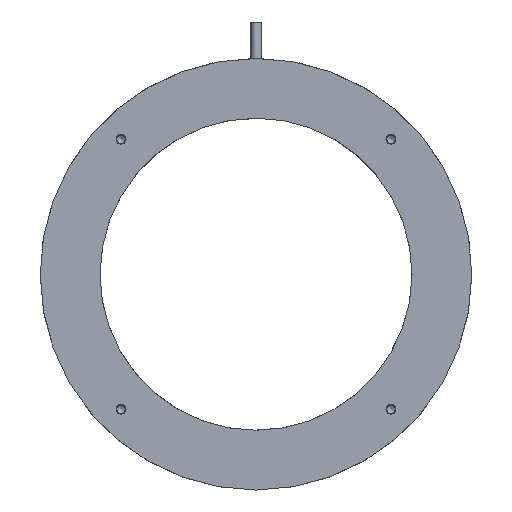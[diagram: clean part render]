
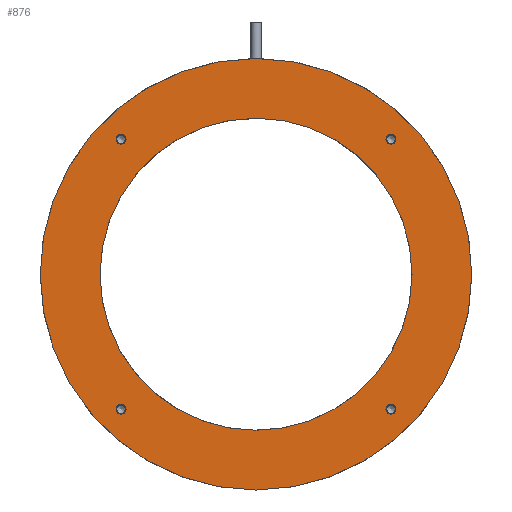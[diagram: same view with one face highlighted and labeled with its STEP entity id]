
A CAD part, front view. The second image highlights one B-rep face of the part: STEP entity #876.
In plain terms, the highlighted planar face has unit normal (0, -1, 0).
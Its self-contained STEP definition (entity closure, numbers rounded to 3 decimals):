
#31=FACE_BOUND('',#140,.T.);
#32=FACE_BOUND('',#141,.T.);
#33=FACE_BOUND('',#142,.T.);
#34=FACE_BOUND('',#143,.T.);
#35=FACE_BOUND('',#144,.T.);
#56=PLANE('',#979);
#88=FACE_OUTER_BOUND('',#139,.T.);
#139=EDGE_LOOP('',(#674));
#140=EDGE_LOOP('',(#675,#676));
#141=EDGE_LOOP('',(#677,#678));
#142=EDGE_LOOP('',(#679,#680));
#143=EDGE_LOOP('',(#681,#682));
#144=EDGE_LOOP('',(#683));
#285=CIRCLE('',#968,65.);
#291=CIRCLE('',#980,1.5);
#292=CIRCLE('',#981,1.5);
#293=CIRCLE('',#982,1.5);
#294=CIRCLE('',#983,1.5);
#295=CIRCLE('',#984,1.5);
#296=CIRCLE('',#985,1.5);
#297=CIRCLE('',#986,1.5);
#298=CIRCLE('',#987,1.5);
#299=CIRCLE('',#988,47.);
#370=VERTEX_POINT('',#1469);
#375=VERTEX_POINT('',#1490);
#376=VERTEX_POINT('',#1491);
#377=VERTEX_POINT('',#1494);
#378=VERTEX_POINT('',#1495);
#379=VERTEX_POINT('',#1498);
#380=VERTEX_POINT('',#1499);
#381=VERTEX_POINT('',#1502);
#382=VERTEX_POINT('',#1503);
#383=VERTEX_POINT('',#1506);
#477=EDGE_CURVE('',#370,#370,#285,.T.);
#487=EDGE_CURVE('',#375,#376,#291,.T.);
#488=EDGE_CURVE('',#376,#375,#292,.T.);
#489=EDGE_CURVE('',#377,#378,#293,.T.);
#490=EDGE_CURVE('',#378,#377,#294,.T.);
#491=EDGE_CURVE('',#379,#380,#295,.T.);
#492=EDGE_CURVE('',#380,#379,#296,.T.);
#493=EDGE_CURVE('',#381,#382,#297,.T.);
#494=EDGE_CURVE('',#382,#381,#298,.T.);
#495=EDGE_CURVE('',#383,#383,#299,.T.);
#674=ORIENTED_EDGE('',*,*,#477,.T.);
#675=ORIENTED_EDGE('',*,*,#487,.F.);
#676=ORIENTED_EDGE('',*,*,#488,.F.);
#677=ORIENTED_EDGE('',*,*,#489,.F.);
#678=ORIENTED_EDGE('',*,*,#490,.F.);
#679=ORIENTED_EDGE('',*,*,#491,.F.);
#680=ORIENTED_EDGE('',*,*,#492,.F.);
#681=ORIENTED_EDGE('',*,*,#493,.F.);
#682=ORIENTED_EDGE('',*,*,#494,.F.);
#683=ORIENTED_EDGE('',*,*,#495,.F.);
#876=ADVANCED_FACE('',(#88,#31,#32,#33,#34,#35),#56,.F.);
#968=AXIS2_PLACEMENT_3D('',#1470,#1163,#1164);
#979=AXIS2_PLACEMENT_3D('',#1489,#1189,#1190);
#980=AXIS2_PLACEMENT_3D('',#1492,#1191,#1192);
#981=AXIS2_PLACEMENT_3D('',#1493,#1193,#1194);
#982=AXIS2_PLACEMENT_3D('',#1496,#1195,#1196);
#983=AXIS2_PLACEMENT_3D('',#1497,#1197,#1198);
#984=AXIS2_PLACEMENT_3D('',#1500,#1199,#1200);
#985=AXIS2_PLACEMENT_3D('',#1501,#1201,#1202);
#986=AXIS2_PLACEMENT_3D('',#1504,#1203,#1204);
#987=AXIS2_PLACEMENT_3D('',#1505,#1205,#1206);
#988=AXIS2_PLACEMENT_3D('',#1507,#1207,#1208);
#1163=DIRECTION('center_axis',(0.,-1.,0.));
#1164=DIRECTION('ref_axis',(0.,0.,
-1.));
#1189=DIRECTION('center_axis',(0.,1.,0.));
#1190=DIRECTION('ref_axis',(0.,0.,
1.));
#1191=DIRECTION('center_axis',(0.,-1.,0.));
#1192=DIRECTION('ref_axis',(0.,0.,
-1.));
#1193=DIRECTION('center_axis',(0.,-1.,0.));
#1194=DIRECTION('ref_axis',(0.,0.,
-1.));
#1195=DIRECTION('center_axis',(0.,-1.,0.));
#1196=DIRECTION('ref_axis',(0.,0.,
-1.));
#1197=DIRECTION('center_axis',(0.,-1.,0.));
#1198=DIRECTION('ref_axis',(0.,0.,
-1.));
#1199=DIRECTION('center_axis',(0.,-1.,0.));
#1200=DIRECTION('ref_axis',(0.,0.,
-1.));
#1201=DIRECTION('center_axis',(0.,-1.,0.));
#1202=DIRECTION('ref_axis',(0.,0.,
-1.));
#1203=DIRECTION('center_axis',(0.,-1.,0.));
#1204=DIRECTION('ref_axis',(0.,0.,
-1.));
#1205=DIRECTION('center_axis',(0.,-1.,0.));
#1206=DIRECTION('ref_axis',(0.,0.,
-1.));
#1207=DIRECTION('center_axis',(0.,-1.,0.));
#1208=DIRECTION('ref_axis',(0.,0.,
-1.));
#1469=CARTESIAN_POINT('',(0.,0.,65.));
#1470=CARTESIAN_POINT('Origin',(0.,0.,0.));
#1489=CARTESIAN_POINT('Origin',(0.,0.,0.));
#1490=CARTESIAN_POINT('',(40.659,0.,39.159));
#1491=CARTESIAN_POINT('',(40.659,0.,42.159));
#1492=CARTESIAN_POINT('Origin',(40.659,0.,40.659));
#1493=CARTESIAN_POINT('Origin',(40.659,0.,40.659));
#1494=CARTESIAN_POINT('',(-40.659,0.,39.159));
#1495=CARTESIAN_POINT('',(-40.659,0.,42.159));
#1496=CARTESIAN_POINT('Origin',(-40.659,0.,
40.659));
#1497=CARTESIAN_POINT('Origin',(-40.659,0.,
40.659));
#1498=CARTESIAN_POINT('',(-40.659,0.,-42.159));
#1499=CARTESIAN_POINT('',(-40.659,0.,-39.159));
#1500=CARTESIAN_POINT('Origin',(-40.659,0.,
-40.659));
#1501=CARTESIAN_POINT('Origin',(-40.659,0.,
-40.659));
#1502=CARTESIAN_POINT('',(40.659,0.,-42.159));
#1503=CARTESIAN_POINT('',(40.659,0.,-39.159));
#1504=CARTESIAN_POINT('Origin',(40.659,0.,
-40.659));
#1505=CARTESIAN_POINT('Origin',(40.659,0.,
-40.659));
#1506=CARTESIAN_POINT('',(0.,0.,47.));
#1507=CARTESIAN_POINT('Origin',(0.,0.,0.));
